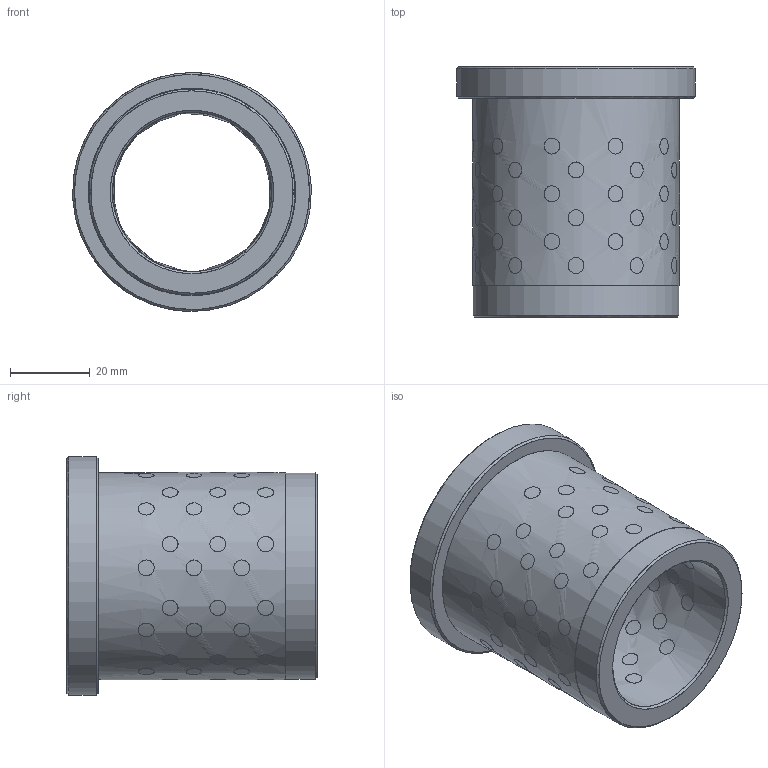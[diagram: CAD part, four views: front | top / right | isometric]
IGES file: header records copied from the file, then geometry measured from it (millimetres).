
Start section: Missler Software BP 521, 31674 Labege Cedex, France Tel   : +33 (0)5 61 00 03 00 Fax   : +33 (0)5 61 00 03 03 Email : sup.topsolid@topsolid.com
Global section: file name: D:\Cuma\25 06 2009\D30.03\D30.03_4063.igs; native system: TopSolid v605250 Missler Software; preprocessor: IGES preprocessor v100000; date: 030203.150813; units: millimetre
Bounding box: 59.94 x 63 x 60 mm (x, y, z)
Surface area: 36170 mm2 (no closed solid volume)
Topology: 0 solids, 0 shells, 434 faces, 10749 edges, 10380 vertices
Faces by surface type: bspline 434
